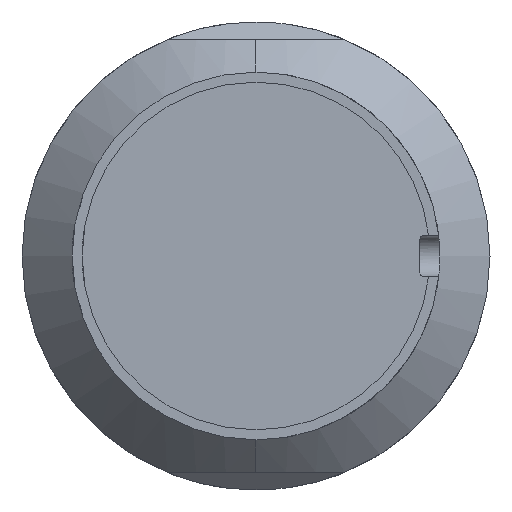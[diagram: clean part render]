
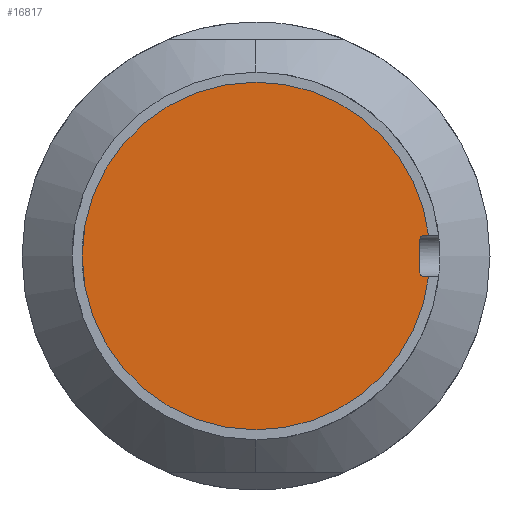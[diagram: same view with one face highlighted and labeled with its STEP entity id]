
A CAD part, left-side view. The second image highlights one B-rep face of the part: STEP entity #16817.
In plain terms, the highlighted planar face has unit normal (-1, 0, 0).
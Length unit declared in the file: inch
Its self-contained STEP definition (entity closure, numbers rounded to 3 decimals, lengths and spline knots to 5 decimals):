
#5716 = DIRECTION ( 'NONE',  ( 0., 0., -1. ) ) ;
#5717 = DIRECTION ( 'NONE',  ( 1., 0., 0. ) ) ;
#5718 = CARTESIAN_POINT ( 'NONE',  ( -2.8325, -0.505, -0.0475 ) ) ;
#5719 = AXIS2_PLACEMENT_3D ( 'NONE', #5718, #5717, #5716 ) ;
#5720 = CIRCLE ( 'NONE', #5719, 0.015 ) ;
#5721 = CARTESIAN_POINT ( 'NONE',  ( -2.8325, -0.505, -0.0625 ) ) ;
#5722 = DIRECTION ( 'NONE',  ( 0., -1., 0. ) ) ;
#5723 = VECTOR ( 'NONE', #5722, 39.37008 ) ;
#5724 = CARTESIAN_POINT ( 'NONE',  ( -2.8325, -0.49, -0.0625 ) ) ;
#5725 = LINE ( 'NONE', #5724, #5723 ) ;
#5726 = DIRECTION ( 'NONE',  ( 0., -1., 0. ) ) ;
#5727 = VECTOR ( 'NONE', #5726, 39.37008 ) ;
#5728 = CARTESIAN_POINT ( 'NONE',  ( -2.8325, -0.49, 0.0625 ) ) ;
#5729 = LINE ( 'NONE', #5728, #5727 ) ;
#5730 = CARTESIAN_POINT ( 'NONE',  ( -2.8325, -0.505, 0.0625 ) ) ;
#5731 = DIRECTION ( 'NONE',  ( 0., 0., -1. ) ) ;
#5732 = DIRECTION ( 'NONE',  ( 1., 0., 0. ) ) ;
#5733 = AXIS2_PLACEMENT_3D ( 'NONE', #5774, #5732, #5731 ) ;
#5769 = CIRCLE ( 'NONE', #5733, 0.015 ) ;
#5774 = CARTESIAN_POINT ( 'NONE',  ( -2.8325, -0.505, 0.0475 ) ) ;
#6025 = FACE_OUTER_BOUND ( 'NONE', #16819, .T. ) ;
#6050 = DIRECTION ( 'NONE',  ( 0., 0., -1. ) ) ;
#6051 = VECTOR ( 'NONE', #6050, 39.37008 ) ;
#6052 = CARTESIAN_POINT ( 'NONE',  ( -2.8325, -0.49, 0.0625 ) ) ;
#6053 = LINE ( 'NONE', #6052, #6051 ) ;
#6054 = DIRECTION ( 'NONE',  ( 0., 0., -1. ) ) ;
#6055 = DIRECTION ( 'NONE',  ( 1., 0., 0. ) ) ;
#6056 = CARTESIAN_POINT ( 'NONE',  ( -2.8325, 0., 0. ) ) ;
#6057 = AXIS2_PLACEMENT_3D ( 'NONE', #6056, #6055, #6054 ) ;
#6058 = PLANE ( 'NONE',  #6057 ) ;
#6110 = CARTESIAN_POINT ( 'NONE',  ( -2.8325, -0.51623, 0.0625 ) ) ;
#6111 = DIRECTION ( 'NONE',  ( 0., 0., -1. ) ) ;
#6112 = DIRECTION ( 'NONE',  ( 1., 0., 0. ) ) ;
#6113 = CARTESIAN_POINT ( 'NONE',  ( -2.8325, 0., 0. ) ) ;
#6114 = AXIS2_PLACEMENT_3D ( 'NONE', #6113, #6112, #6111 ) ;
#6115 = CIRCLE ( 'NONE', #6114, 0.52 ) ;
#6181 = CARTESIAN_POINT ( 'NONE',  ( -2.8325, 0., 0.52 ) ) ;
#6182 = DIRECTION ( 'NONE',  ( 0., 0., -1. ) ) ;
#6183 = DIRECTION ( 'NONE',  ( 1., 0., 0. ) ) ;
#6184 = CARTESIAN_POINT ( 'NONE',  ( -2.8325, 0., 0. ) ) ;
#6185 = AXIS2_PLACEMENT_3D ( 'NONE', #6184, #6183, #6182 ) ;
#6195 = DIRECTION ( 'NONE',  ( 0., 0., -1. ) ) ;
#6196 = DIRECTION ( 'NONE',  ( 1., 0., 0. ) ) ;
#6197 = CARTESIAN_POINT ( 'NONE',  ( -2.8325, 0., 0. ) ) ;
#6198 = AXIS2_PLACEMENT_3D ( 'NONE', #6197, #6196, #6195 ) ;
#6199 = CIRCLE ( 'NONE', #6198, 0.52 ) ;
#6201 = CARTESIAN_POINT ( 'NONE',  ( -2.8325, -0.51623, -0.0625 ) ) ;
#6223 = CARTESIAN_POINT ( 'NONE',  ( -2.8325, -0.49, -0.0475 ) ) ;
#6224 = CARTESIAN_POINT ( 'NONE',  ( -2.8325, -0.49, 0.0475 ) ) ;
#6249 = CIRCLE ( 'NONE', #6185, 0.52 ) ;
#6250 = CARTESIAN_POINT ( 'NONE',  ( -2.8325, 0., -0.52 ) ) ;
#16722 = EDGE_CURVE ( 'NONE', #16870, #16724, #5769, .T. ) ;
#16724 = VERTEX_POINT ( 'NONE', #5730 ) ;
#16725 = ORIENTED_EDGE ( 'NONE', *, *, #16726, .T. ) ;
#16726 = EDGE_CURVE ( 'NONE', #16724, #16962, #5729, .T. ) ;
#16728 = ORIENTED_EDGE ( 'NONE', *, *, #16960, .F. ) ;
#16729 = ORIENTED_EDGE ( 'NONE', *, *, #16925, .F. ) ;
#16730 = ORIENTED_EDGE ( 'NONE', *, *, #16893, .F. ) ;
#16732 = ORIENTED_EDGE ( 'NONE', *, *, #16733, .F. ) ;
#16733 = EDGE_CURVE ( 'NONE', #16735, #16889, #5725, .T. ) ;
#16735 = VERTEX_POINT ( 'NONE', #5721 ) ;
#16736 = ORIENTED_EDGE ( 'NONE', *, *, #16737, .T. ) ;
#16737 = EDGE_CURVE ( 'NONE', #16735, #16871, #5720, .T. ) ;
#16817 = ADVANCED_FACE ( 'NONE', ( #6025 ), #6058, .F. ) ;
#16819 = EDGE_LOOP ( 'NONE', ( #16820, #16873, #16725, #16728, #16729, #16730, #16732, #16736 ) ) ;
#16820 = ORIENTED_EDGE ( 'NONE', *, *, #16821, .F. ) ;
#16821 = EDGE_CURVE ( 'NONE', #16870, #16871, #6053, .T. ) ;
#16870 = VERTEX_POINT ( 'NONE', #6224 ) ;
#16871 = VERTEX_POINT ( 'NONE', #6223 ) ;
#16873 = ORIENTED_EDGE ( 'NONE', *, *, #16722, .T. ) ;
#16889 = VERTEX_POINT ( 'NONE', #6201 ) ;
#16893 = EDGE_CURVE ( 'NONE', #16889, #16923, #6199, .T. ) ;
#16923 = VERTEX_POINT ( 'NONE', #6250 ) ;
#16925 = EDGE_CURVE ( 'NONE', #16923, #16927, #6249, .T. ) ;
#16927 = VERTEX_POINT ( 'NONE', #6181 ) ;
#16960 = EDGE_CURVE ( 'NONE', #16927, #16962, #6115, .T. ) ;
#16962 = VERTEX_POINT ( 'NONE', #6110 ) ;
